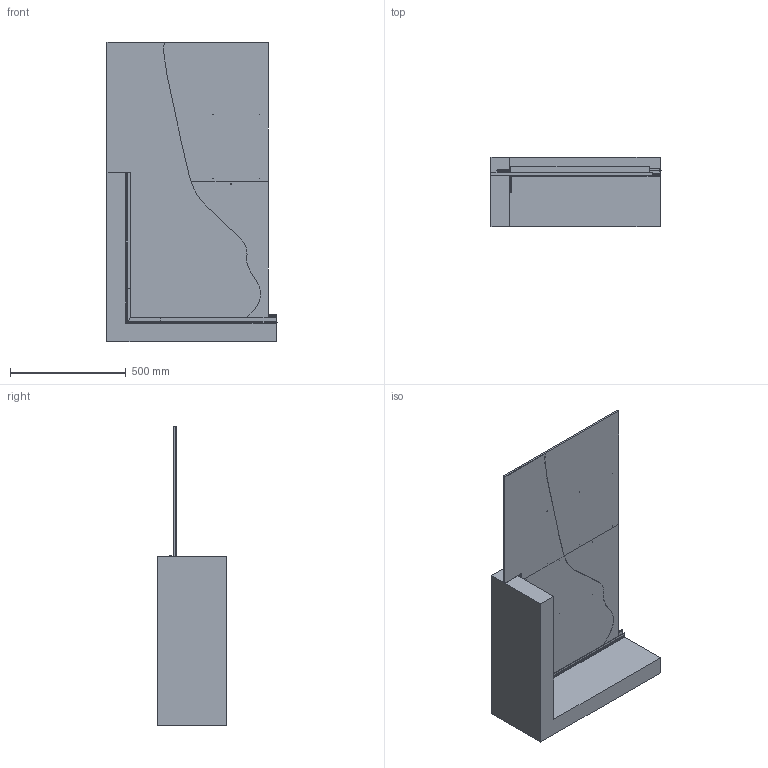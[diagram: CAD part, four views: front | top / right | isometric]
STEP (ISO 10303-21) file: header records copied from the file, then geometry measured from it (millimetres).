
FILE_DESCRIPTION (( 'STEP AP214' ), '1' );
FILE_NAME ('Plasterboard ceiling rail 9.5mm.STEP', '2021-06-10T07:47:15', ( '' ), ( '' ), 'SwSTEP 2.0', 'SolidWorks 2021', '' );
FILE_SCHEMA (( 'AUTOMOTIVE_DESIGN' ));
Length unit declared in the file: millimetre
Products named in the file (18): Wall; SR10400-2; CP10110 Architecten; Plaster 9.5mm - 2; PC10120_samenstelling rechts; SR10400; Plasterboard ceiling rail 9.5mm; HA30800 Architecten_Geperst; PC10120_PC9.5-ICL; Plasterboard 9.5mm - 2; RD20400; PC10120_PC9.5-ICR; PC10120_samenstelling links; RD20500; Plasterboard 9.5mm; Perlonkoord Architecten; SR10400-1; wooden slat
Assembly tree (26 placements, depth 3):
  Plasterboard ceiling rail 9.5mm
    PC10120_PC9.5-ICL
    PC10120_PC9.5-ICR
    Plasterboard 9.5mm
    Wall
    wooden slat  x2
    PC10120_samenstelling links
    PC10120_samenstelling rechts
    RD20400  x2
    RD20500
    SR10400  x8
      SR10400-1
      SR10400-2
    CP10110 Architecten
      HA30800 Architecten_Geperst
      Perlonkoord Architecten
    Plasterboard 9.5mm - 2
    Plaster 9.5mm - 2
Bounding box: 733.99 x 300 x 1291.7 mm (x, y, z)
Volume: 43114976.4 mm3; surface area: 4039393.5 mm2
Topology: 31 solids, 31 shells, 2210 faces, 6041 edges, 3936 vertices
Faces by surface type: cylinder 1078, plane 723, cone 213, torus 133, bspline 49, sphere 14
Entity records: 32722 total; most frequent: CARTESIAN_POINT 10356, ORIENTED_EDGE 4718, DIRECTION 4470, EDGE_CURVE 2359, AXIS2_PLACEMENT_3D 1585, VERTEX_POINT 1541, VECTOR 1300, LINE 1300
